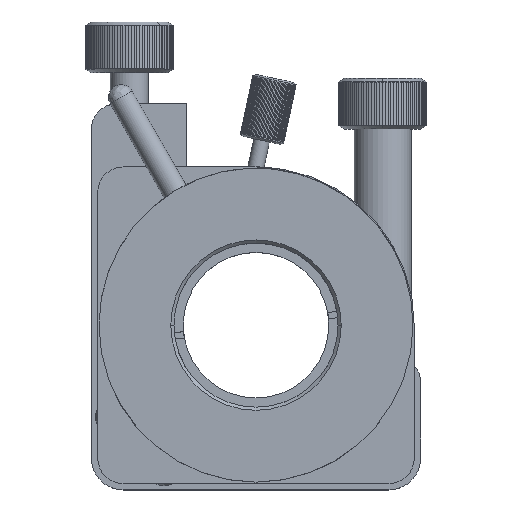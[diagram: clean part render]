
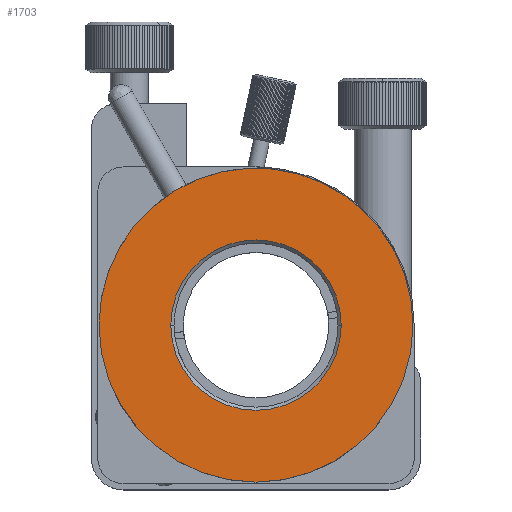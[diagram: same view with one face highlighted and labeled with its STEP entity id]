
A CAD part, top view. The second image highlights one B-rep face of the part: STEP entity #1703.
In plain terms, the highlighted planar face has unit normal (0, 0, 1).
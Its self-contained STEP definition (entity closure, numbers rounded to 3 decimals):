
#1682 = EDGE_CURVE ( 'NONE', #9025, #9018, #13047, .T. ) ;
#1703 = ADVANCED_FACE ( 'NONE', ( #13063, #13062 ), #13110, .T. ) ;
#1704 = ORIENTED_EDGE ( 'NONE', *, *, #9116, .F. ) ;
#1705 = ORIENTED_EDGE ( 'NONE', *, *, #9151, .F. ) ;
#1706 = ORIENTED_EDGE ( 'NONE', *, *, #1707, .F. ) ;
#1707 = EDGE_CURVE ( 'NONE', #9118, #9087, #13105, .T. ) ;
#1708 = EDGE_LOOP ( 'NONE', ( #1709, #1710 ) ) ;
#1709 = ORIENTED_EDGE ( 'NONE', *, *, #8946, .T. ) ;
#1710 = ORIENTED_EDGE ( 'NONE', *, *, #1682, .T. ) ;
#1725 = EDGE_LOOP ( 'NONE', ( #1704, #1705, #1706 ) ) ;
#8946 = EDGE_CURVE ( 'NONE', #9018, #9025, #26339, .T. ) ;
#9018 = VERTEX_POINT ( 'NONE', #26538 ) ;
#9025 = VERTEX_POINT ( 'NONE', #26532 ) ;
#9087 = VERTEX_POINT ( 'NONE', #26608 ) ;
#9116 = EDGE_CURVE ( 'NONE', #9117, #9118, #26777, .T. ) ;
#9117 = VERTEX_POINT ( 'NONE', #26778 ) ;
#9118 = VERTEX_POINT ( 'NONE', #26762 ) ;
#9151 = EDGE_CURVE ( 'NONE', #9087, #9117, #26782, .T. ) ;
#13039 = DIRECTION ( 'NONE',  ( 1., 0., 0. ) ) ;
#13040 = DIRECTION ( 'NONE',  ( 0., 0., -1. ) ) ;
#13041 = CARTESIAN_POINT ( 'NONE',  ( 3.741, -27.09, 28.193 ) ) ;
#13042 = AXIS2_PLACEMENT_3D ( 'NONE', #13041, #13040, #13039 ) ;
#13047 = CIRCLE ( 'NONE', #13042, 13.458 ) ;
#13062 = FACE_BOUND ( 'NONE', #1708, .T. ) ;
#13063 = FACE_OUTER_BOUND ( 'NONE', #1725, .T. ) ;
#13101 = DIRECTION ( 'NONE',  ( -1., 0., 0. ) ) ;
#13102 = DIRECTION ( 'NONE',  ( 0., 0., -1. ) ) ;
#13103 = CARTESIAN_POINT ( 'NONE',  ( 3.741, -27.09, 28.193 ) ) ;
#13104 = AXIS2_PLACEMENT_3D ( 'NONE', #13103, #13102, #13101 ) ;
#13105 = CIRCLE ( 'NONE', #13104, 24.8 ) ;
#13106 = DIRECTION ( 'NONE',  ( 0., -1., 0. ) ) ;
#13107 = DIRECTION ( 'NONE',  ( 0., 0., 1. ) ) ;
#13108 = CARTESIAN_POINT ( 'NONE',  ( 3.741, -27.09, 28.193 ) ) ;
#13109 = AXIS2_PLACEMENT_3D ( 'NONE', #13108, #13107, #13106 ) ;
#13110 = PLANE ( 'NONE',  #13109 ) ;
#26335 = DIRECTION ( 'NONE',  ( 1., 0., 0. ) ) ;
#26336 = DIRECTION ( 'NONE',  ( 0., 0., -1. ) ) ;
#26337 = CARTESIAN_POINT ( 'NONE',  ( 3.741, -27.09, 28.193 ) ) ;
#26338 = AXIS2_PLACEMENT_3D ( 'NONE', #26337, #26336, #26335 ) ;
#26339 = CIRCLE ( 'NONE', #26338, 13.458 ) ;
#26532 = CARTESIAN_POINT ( 'NONE',  ( -9.718, -27.09, 28.193 ) ) ;
#26538 = CARTESIAN_POINT ( 'NONE',  ( 17.199, -27.09, 28.193 ) ) ;
#26608 = CARTESIAN_POINT ( 'NONE',  ( -21.059, -27.09, 28.193 ) ) ;
#26762 = CARTESIAN_POINT ( 'NONE',  ( 28.541, -27.09, 28.193 ) ) ;
#26763 = DIRECTION ( 'NONE',  ( -1., 0., 0. ) ) ;
#26764 = DIRECTION ( 'NONE',  ( 0., 0., -1. ) ) ;
#26775 = CARTESIAN_POINT ( 'NONE',  ( 3.741, -27.09, 28.193 ) ) ;
#26776 = AXIS2_PLACEMENT_3D ( 'NONE', #26775, #26764, #26763 ) ;
#26777 = CIRCLE ( 'NONE', #26776, 24.8 ) ;
#26778 = CARTESIAN_POINT ( 'NONE',  ( -9.109, -5.878, 28.193 ) ) ;
#26779 = DIRECTION ( 'NONE',  ( 0., 0., -1. ) ) ;
#26780 = CARTESIAN_POINT ( 'NONE',  ( 3.741, -27.09, 28.193 ) ) ;
#26781 = AXIS2_PLACEMENT_3D ( 'NONE', #26780, #26779, #26838 ) ;
#26782 = CIRCLE ( 'NONE', #26781, 24.8 ) ;
#26838 = DIRECTION ( 'NONE',  ( -1., 0., 0. ) ) ;
